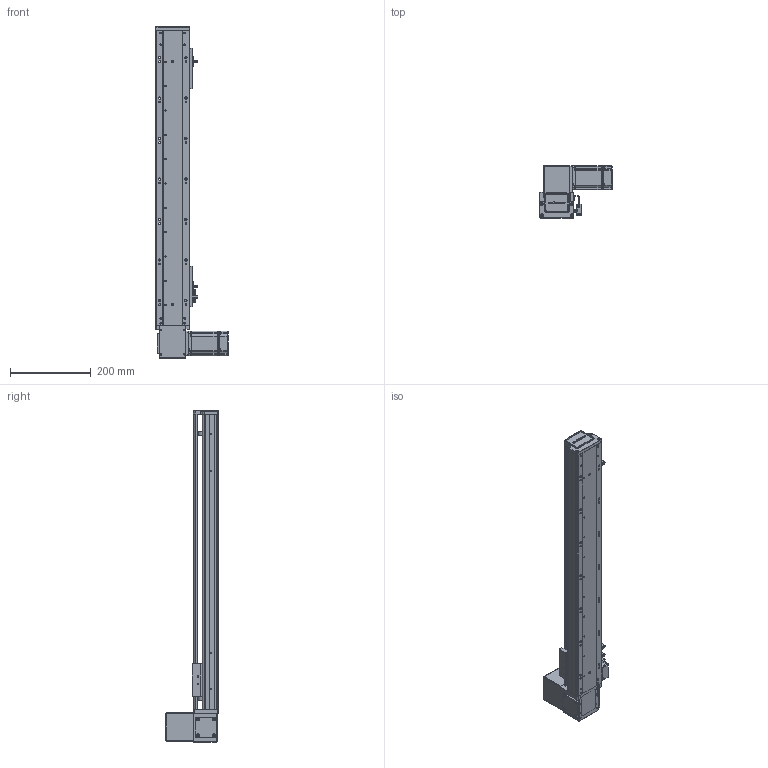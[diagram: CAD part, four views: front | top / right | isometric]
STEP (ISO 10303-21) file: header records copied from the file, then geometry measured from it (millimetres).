
FILE_DESCRIPTION (( 'STEP AP203' ), '1' );
FILE_NAME ('RY80-T-300-UR.SLDASM_550.step', '2021-03-01T02:26:00', ( '盈信电脑' ), ( '东莞市道滘镇水果街19号' ), 'SwSTEP 2.0', 'SolidWorks 2012', '' );
FILE_SCHEMA (( 'CONFIG_CONTROL_DESIGN' ));
Length unit declared in the file: millimetre
Products named in the file (20): RY80-T萇儂假蚾啣; RY80-T-300-UR.SLDASM_550; RY80-T-M4蹟翐2; RY80-T-上下折同步轮盖板; RY80-T肮祭謫奻殏俋欶; RY80-T翋肮祭謫裔啣; 1; 滅袉蝶18-10; RY80-T粣創揤踡輸; RY100-T粣創揤踡裔; RY80-T肮祭湍揤輸1; RY80俋离覜茼え; RY80-T-翋肮祭謫釱; RY80-T肮祭湍揤輸2; RY80-T-300-UR倰第奻裔啣_550; 672嫖萇羲壽假蚾釱; RY80-T綴裔啣; 覜茼ん672; RY80-T-300-UR倰第菁釱_550; RY80-T肮祭謫臏賑輸
Assembly tree (23 placements, depth 2):
  RY80-T-300-UR.SLDASM_550
    RY80-T-300-UR倰第菁釱_550
    RY80-T肮祭謫臏賑輸
    RY80-T-300-UR倰第奻裔啣_550
    RY80-T綴裔啣
    672嫖萇羲壽假蚾釱  x2
    覜茼ん672  x3
    RY80俋离覜茼え
    RY80-T-翋肮祭謫釱
    RY80-T肮祭湍揤輸1
    RY80-T肮祭湍揤輸2
    RY80-T粣創揤踡輸
    滅袉蝶18-10  x2
    RY100-T粣創揤踡裔
    RY80-T翋肮祭謫裔啣
    RY80-T-上下折同步轮盖板
    1
    RY80-T肮祭謫奻殏俋欶
    RY80-T-M4蹟翐2
    RY80-T萇儂假蚾啣
Bounding box: 180 x 130.5 x 820 mm (x, y, z)
Volume: 1606352.1 mm3; surface area: 654323 mm2
Topology: 23 solids, 23 shells, 2472 faces, 6808 edges, 4422 vertices
Faces by surface type: plane 1337, cylinder 938, cone 141, bspline 56
Entity records: 78826 total; most frequent: CARTESIAN_POINT 19020, ORIENTED_EDGE 12260, DIRECTION 11552, EDGE_CURVE 6130, VERTEX_POINT 4026, AXIS2_PLACEMENT_3D 3882, VECTOR 3788, LINE 3788
